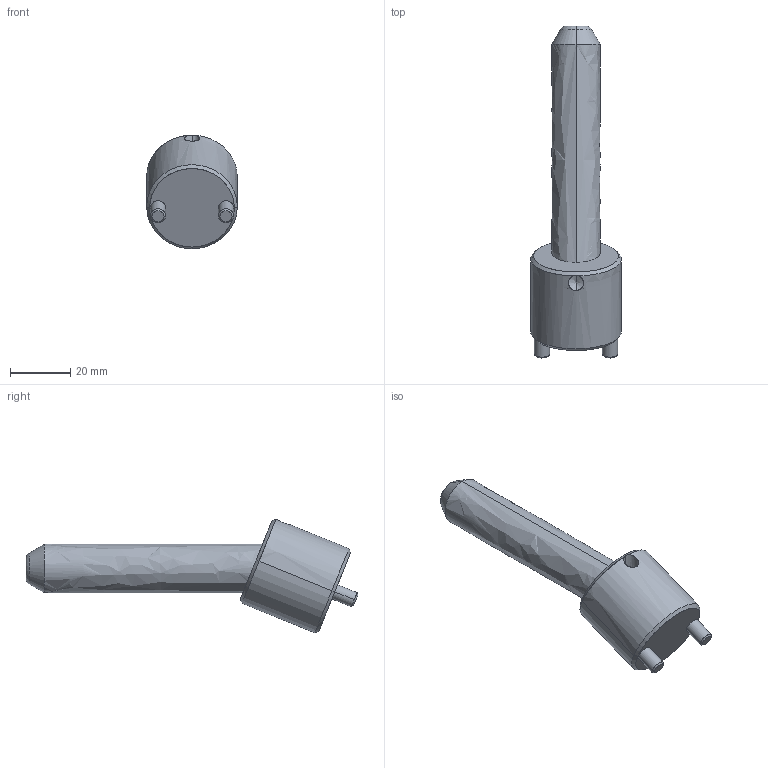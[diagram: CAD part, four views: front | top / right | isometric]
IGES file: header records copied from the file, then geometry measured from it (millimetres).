
Start section: START RECORD GO HERE.
Global section: file name: CI2216075.igs; native system: DASSAULT SYSTEMES CATIA V5 R20 - www.3ds.com; preprocessor: CATIA Version 5 Release 20 ; author: r.borello; organization: CFTORINO; date: 20190624.084744; units: millimetre
Bounding box: 30 x 109.79 x 37.53 mm (x, y, z)
Surface area: 10686.8 mm2 (no closed solid volume)
Topology: 0 solids, 0 shells, 39 faces, 168 edges, 166 vertices
Faces by surface type: revolution 32, plane 7
